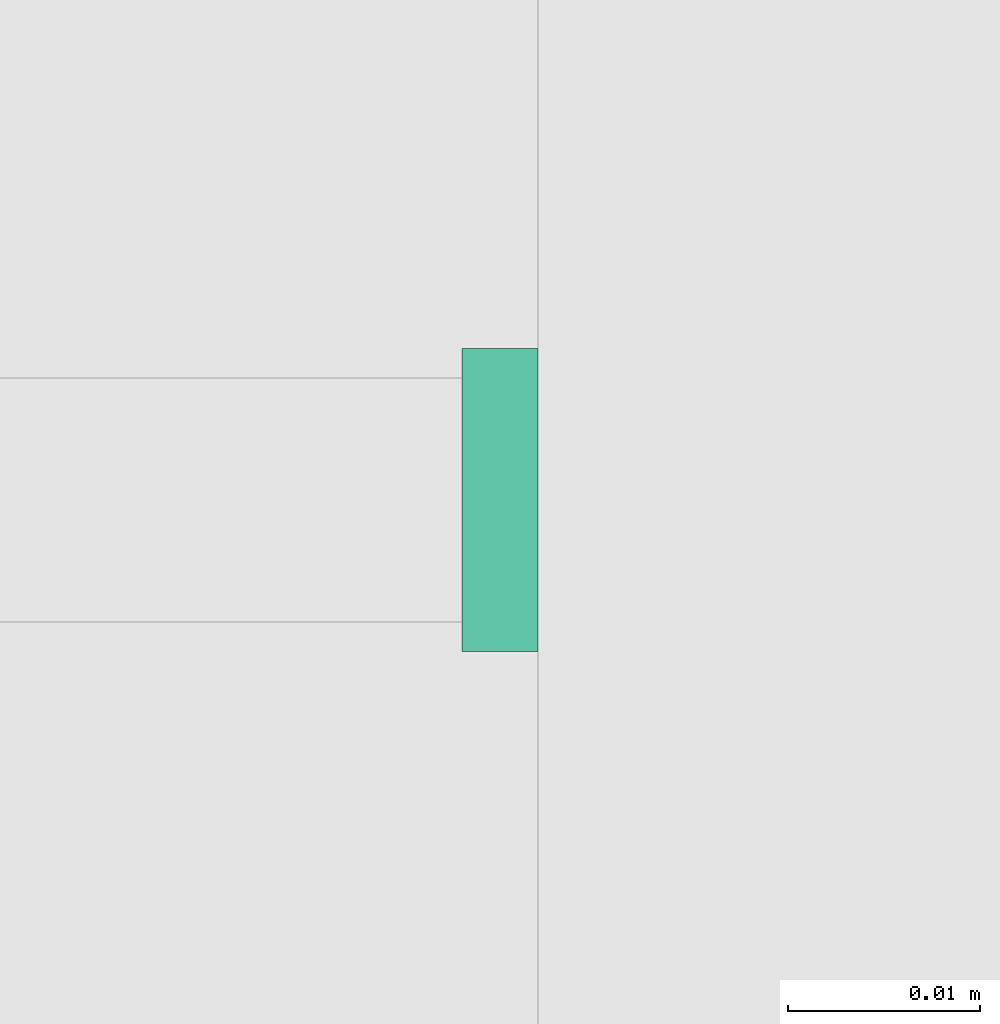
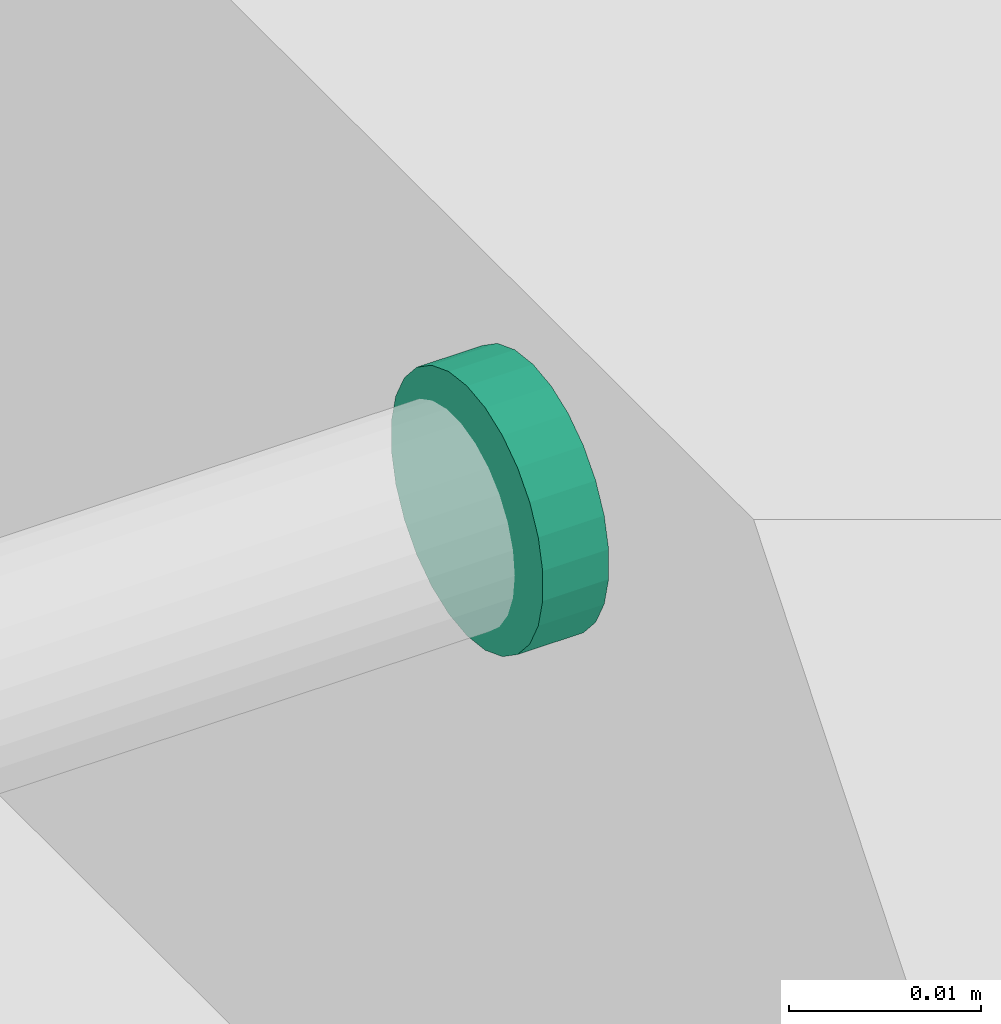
# One storey, part 15 of 24: 1 flow fitting.
"""IFC2X3 building model written with IfcOpenShell, lengths in millimetres."""

from ifc_helpers import new_model, entity, si_unit, converted_unit, derived_unit, direction, frame, origin, origin_2d_with_axis, place, context, subcontext, project, spatial, circle, extrude, source, transform, mapped, material, type_object, type_shapes, element, save


model = new_model("IFC2X3")

# Units and contexts
model_context = context("Model", 3, precision=0.01, world=origin(), true_north=direction((6.123031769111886e-17, 1.0)))
body_context = subcontext(model_context, "Body", "Model", "MODEL_VIEW")
ifc_project = project(units=[si_unit("LENGTHUNIT", "METRE", prefix="MILLI"), si_unit("AREAUNIT", "SQUARE_METRE"), si_unit("VOLUMEUNIT", "CUBIC_METRE"), converted_unit("PLANEANGLEUNIT", "DEGREE", entity("IfcRatioMeasure", 0.017453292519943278), si_unit("PLANEANGLEUNIT", "RADIAN"), dimensions=[0, 0, 0, 0, 0, 0, 0]), si_unit("MASSUNIT", "GRAM", prefix="KILO"), derived_unit("MASSDENSITYUNIT", [(si_unit("MASSUNIT", "GRAM", prefix="KILO"), 1), (si_unit("LENGTHUNIT", "METRE"), -3)]), derived_unit("MOMENTOFINERTIAUNIT", [(si_unit("LENGTHUNIT", "METRE"), 4)]), si_unit("TIMEUNIT", "SECOND"), si_unit("FREQUENCYUNIT", "HERTZ"), si_unit("THERMODYNAMICTEMPERATUREUNIT", "DEGREE_CELSIUS"), derived_unit("THERMALTRANSMITTANCEUNIT", [(si_unit("MASSUNIT", "GRAM", prefix="KILO"), 1), (si_unit("THERMODYNAMICTEMPERATUREUNIT", "KELVIN"), -1), (si_unit("TIMEUNIT", "SECOND"), -3)]), derived_unit("VOLUMETRICFLOWRATEUNIT", [(si_unit("LENGTHUNIT", "METRE"), 3), (si_unit("TIMEUNIT", "SECOND"), -1)]), derived_unit("MASSFLOWRATEUNIT", [(si_unit("MASSUNIT", "GRAM", prefix="KILO"), 1), (si_unit("TIMEUNIT", "SECOND"), -1)]), derived_unit("ROTATIONALFREQUENCYUNIT", [(si_unit("TIMEUNIT", "SECOND"), -1)]), si_unit("ELECTRICCURRENTUNIT", "AMPERE"), si_unit("ELECTRICVOLTAGEUNIT", "VOLT"), si_unit("POWERUNIT", "WATT"), si_unit("FORCEUNIT", "NEWTON", prefix="KILO"), si_unit("ILLUMINANCEUNIT", "LUX"), si_unit("LUMINOUSFLUXUNIT", "LUMEN"), si_unit("LUMINOUSINTENSITYUNIT", "CANDELA"), derived_unit("USERDEFINED", [(si_unit("MASSUNIT", "GRAM", prefix="KILO"), -1), (si_unit("LENGTHUNIT", "METRE"), -2), (si_unit("TIMEUNIT", "SECOND"), 3), (si_unit("LUMINOUSFLUXUNIT", "LUMEN"), 1)]), derived_unit("SOUNDPOWERUNIT", [(si_unit("MASSUNIT", "GRAM", prefix="KILO"), 1), (si_unit("LENGTHUNIT", "METRE"), 2), (si_unit("TIMEUNIT", "SECOND"), -3)]), derived_unit("SOUNDPRESSUREUNIT", [(si_unit("MASSUNIT", "GRAM", prefix="KILO"), 1), (si_unit("LENGTHUNIT", "METRE"), -1), (si_unit("TIMEUNIT", "SECOND"), -2)]), derived_unit("LINEARVELOCITYUNIT", [(si_unit("LENGTHUNIT", "METRE"), 1), (si_unit("TIMEUNIT", "SECOND"), -1)]), si_unit("PRESSUREUNIT", "PASCAL"), derived_unit("USERDEFINED", [(si_unit("LENGTHUNIT", "METRE"), -2), (si_unit("MASSUNIT", "GRAM", prefix="KILO"), 1), (si_unit("TIMEUNIT", "SECOND"), -2)]), derived_unit("LINEARFORCEUNIT", [(si_unit("MASSUNIT", "GRAM", prefix="KILO"), 1), (si_unit("LENGTHUNIT", "METRE"), 1), (si_unit("TIMEUNIT", "SECOND"), -2), (si_unit("LENGTHUNIT", "METRE"), -1)]), derived_unit("PLANARFORCEUNIT", [(si_unit("MASSUNIT", "GRAM", prefix="KILO"), 1), (si_unit("LENGTHUNIT", "METRE"), 1), (si_unit("TIMEUNIT", "SECOND"), -2), (si_unit("LENGTHUNIT", "METRE"), -2)])], contexts=[model_context])

# Site, building, storey
site_placement = place(None, origin())
site = spatial("IfcSite", under=ifc_project, at=site_placement, Name="Default", CompositionType="ELEMENT")
building_placement = place(site_placement, origin())
building = spatial("IfcBuilding", under=site, at=building_placement, CompositionType="ELEMENT")
storey_placement = place(building_placement, origin())
storey = spatial("IfcBuildingStorey", under=building, at=storey_placement, Name="Level 1", CompositionType="ELEMENT", Elevation=0.0)

# Flow fitting
ifc_material = material(Name="<Unnamed>")
pipe_fitting_type = type_object("IfcPipeFittingType", Name="M_Transition - Generic:Standard:Standard : M_Transition - Generic:Standard", PredefinedType="NOTDEFINED", material=ifc_material)
shared_shape = source(origin(), body_context, "Body", "SweptSolid", [
    extrude(circle(Radius=7.937500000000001, at=origin_2d_with_axis()), frame((2499.18129958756, 3787.4280521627, 2710.0), z_axis=(1.0, 0.0, 0.0), x_axis=(0.0, 0.0, 1.0)), (0.0, 0.0, 1.0), 3.9687500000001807),
])
type_shapes(pipe_fitting_type, [shared_shape])
flow_fitting_placement = place(storey_placement, origin())
element("IfcFlowFitting", 1, at=flow_fitting_placement, inside=storey, type_object=pipe_fitting_type, material=ifc_material, Name="M_Transition - Generic:Standard:Standard : M_Transition - Generic:Standard:Standard:Standard : M_Transition - Generic:Standard : M_Transition - Generic:Standard:Standard : M_Transition - Generic:Standard", ObjectType="M_Transition - Generic:Standard:Standard : M_Transition - Generic:Standard:Standard:Standard : M_Transition - Generic:Standard : M_Transition - Generic:Standard:Standard : M_Transition - Generic:Standard", context=body_context, shape_type="MappedRepresentation", body=[
    mapped(shared_shape, transform((0.0, 0.0, 0.0), scale=1.0)),
])

save(model, "model.ifc")
